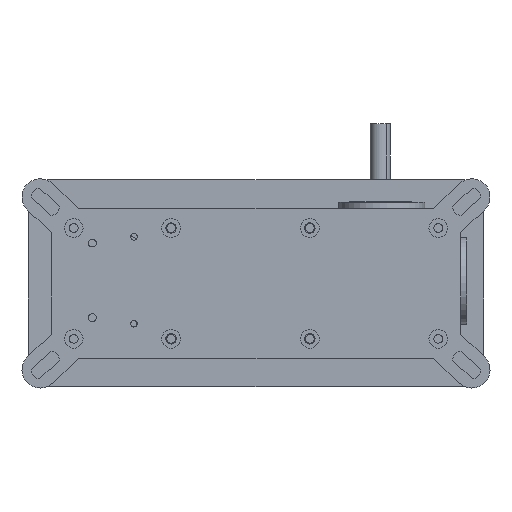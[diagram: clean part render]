
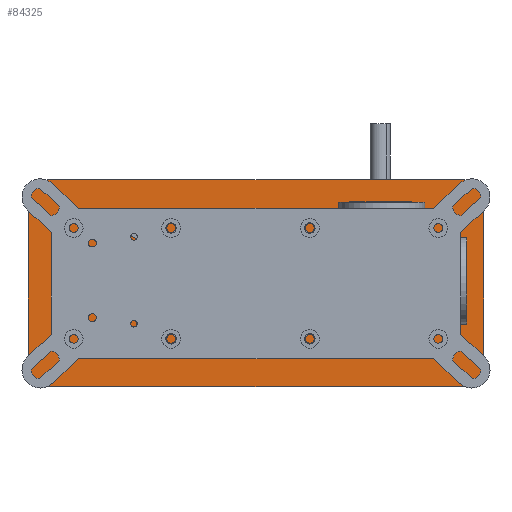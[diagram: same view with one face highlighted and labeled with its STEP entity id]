
A CAD part, front view. The second image highlights one B-rep face of the part: STEP entity #84325.
In plain terms, the highlighted planar face has unit normal (0, -1, 0) as drawn and (0, 0, -1) by its records, which use the part's own axes.
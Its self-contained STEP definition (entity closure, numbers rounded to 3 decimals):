
#5345 = CARTESIAN_POINT ( 'NONE',  ( -68., -14., 0. ) ) ;
#5651 = PLANE ( 'NONE',  #100401 ) ;
#6340 = EDGE_CURVE ( 'NONE', #11785, #133451, #150991, .T. ) ;
#10142 = CARTESIAN_POINT ( 'NONE',  ( 60., 0., 0. ) ) ;
#11785 = VERTEX_POINT ( 'NONE', #39999 ) ;
#12185 = DIRECTION ( 'NONE',  ( 0., 0., -1. ) ) ;
#12628 = ORIENTED_EDGE ( 'NONE', *, *, #43449, .T. ) ;
#12802 = DIRECTION ( 'NONE',  ( 1., 0., 0. ) ) ;
#15882 = DIRECTION ( 'NONE',  ( 0., 0., -1. ) ) ;
#16481 = EDGE_CURVE ( 'NONE', #106326, #70699, #71251, .T. ) ;
#16779 = VERTEX_POINT ( 'NONE', #52475 ) ;
#18472 = DIRECTION ( 'NONE',  ( 0., 0., 1. ) ) ;
#18840 = CARTESIAN_POINT ( 'NONE',  ( -100., 50., 0. ) ) ;
#19722 = CARTESIAN_POINT ( 'NONE',  ( -110., 40., 0. ) ) ;
#20946 = ORIENTED_EDGE ( 'NONE', *, *, #22954, .F. ) ;
#22954 = EDGE_CURVE ( 'NONE', #51712, #16779, #37135, .T. ) ;
#23013 = DIRECTION ( 'NONE',  ( 1., 0., 0. ) ) ;
#26733 = AXIS2_PLACEMENT_3D ( 'NONE', #88496, #12185, #101304 ) ;
#27379 = EDGE_LOOP ( 'NONE', ( #109191, #20946 ) ) ;
#29429 = VECTOR ( 'NONE', #111084, 1000. ) ;
#31152 = AXIS2_PLACEMENT_3D ( 'NONE', #92220, #15882, #105019 ) ;
#33433 = LINE ( 'NONE', #98261, #29429 ) ;
#34103 = CIRCLE ( 'NONE', #67924, 10. ) ;
#35252 = AXIS2_PLACEMENT_3D ( 'NONE', #76246, #165254, #89034 ) ;
#37135 = CIRCLE ( 'NONE', #31152, 30. ) ;
#38470 = ORIENTED_EDGE ( 'NONE', *, *, #136347, .F. ) ;
#39999 = CARTESIAN_POINT ( 'NONE',  ( 100., 50., 0. ) ) ;
#43449 = EDGE_CURVE ( 'NONE', #128712, #133451, #34103, .T. ) ;
#48374 = EDGE_CURVE ( 'NONE', #50403, #102498, #88782, .T. ) ;
#48413 = EDGE_CURVE ( 'NONE', #11785, #158484, #92808, .T. ) ;
#49629 = DIRECTION ( 'NONE',  ( -1., 0., 0. ) ) ;
#50403 = VERTEX_POINT ( 'NONE', #110868 ) ;
#50832 = VECTOR ( 'NONE', #66179, 1000. ) ;
#51712 = VERTEX_POINT ( 'NONE', #95247 ) ;
#52475 = CARTESIAN_POINT ( 'NONE',  ( 90., 0., 0. ) ) ;
#53741 = FACE_BOUND ( 'NONE', #27379, .T. ) ;
#57035 = EDGE_CURVE ( 'NONE', #50403, #60713, #59021, .T. ) ;
#57723 = CARTESIAN_POINT ( 'NONE',  ( -100., 40., 0. ) ) ;
#58349 = CARTESIAN_POINT ( 'NONE',  ( -52., 0., 0. ) ) ;
#59021 = LINE ( 'NONE', #60220, #156556 ) ;
#60220 = CARTESIAN_POINT ( 'NONE',  ( -110., -50., 0. ) ) ;
#60713 = VERTEX_POINT ( 'NONE', #154135 ) ;
#62371 = ORIENTED_EDGE ( 'NONE', *, *, #48413, .T. ) ;
#66179 = DIRECTION ( 'NONE',  ( 0., -1., 0. ) ) ;
#67924 = AXIS2_PLACEMENT_3D ( 'NONE', #57723, #146729, #70558 ) ;
#70558 = DIRECTION ( 'NONE',  ( 1., 0., 0. ) ) ;
#70699 = VERTEX_POINT ( 'NONE', #163769 ) ;
#71144 = CARTESIAN_POINT ( 'NONE',  ( -68., 14., 0. ) ) ;
#71251 =( BOUNDED_CURVE ( )  B_SPLINE_CURVE ( 3, ( #107254, #5345, #106721, #120010 ),
 .UNSPECIFIED., .F., .F. ) 
 B_SPLINE_CURVE_WITH_KNOTS ( ( 4, 4 ),
 ( 0., 3.142 ),
 .UNSPECIFIED. ) 
 CURVE ( )  GEOMETRIC_REPRESENTATION_ITEM ( )  RATIONAL_B_SPLINE_CURVE ( ( 1., 0.333, 0.333, 1. ) ) 
 REPRESENTATION_ITEM ( '' )  );
#76246 = CARTESIAN_POINT ( 'NONE',  ( 100., 40., 0. ) ) ;
#76496 = AXIS2_PLACEMENT_3D ( 'NONE', #165317, #89089, #12802 ) ;
#78687 = EDGE_LOOP ( 'NONE', ( #160121, #93253 ) ) ;
#79356 = VECTOR ( 'NONE', #49629, 1000. ) ;
#80698 = EDGE_LOOP ( 'NONE', ( #104291, #159999, #38470, #12628, #112465, #62371, #101160, #149412 ) ) ;
#83657 = FACE_BOUND ( 'NONE', #78687, .T. ) ;
#84325 = ADVANCED_FACE ( 'NONE', ( #83657, #151264, #53741 ), #5651, .F. ) ;
#85833 = CIRCLE ( 'NONE', #76496, 10. ) ;
#88496 = CARTESIAN_POINT ( 'NONE',  ( -100., -40., 0. ) ) ;
#88782 = CIRCLE ( 'NONE', #26733, 10. ) ;
#89034 = DIRECTION ( 'NONE',  ( 1., 0., 0. ) ) ;
#89089 = DIRECTION ( 'NONE',  ( 0., 0., -1. ) ) ;
#91781 = EDGE_CURVE ( 'NONE', #70699, #106326, #140858, .T. ) ;
#92220 = CARTESIAN_POINT ( 'NONE',  ( 60., 0., 0. ) ) ;
#92808 = CIRCLE ( 'NONE', #35252, 10. ) ;
#93253 = ORIENTED_EDGE ( 'NONE', *, *, #91781, .T. ) ;
#95247 = CARTESIAN_POINT ( 'NONE',  ( 30., 0., 0. ) ) ;
#96636 = CIRCLE ( 'NONE', #142886, 30. ) ;
#98261 = CARTESIAN_POINT ( 'NONE',  ( 110., 50., 0. ) ) ;
#99274 = DIRECTION ( 'NONE',  ( 0., 0., -1. ) ) ;
#100401 = AXIS2_PLACEMENT_3D ( 'NONE', #158177, #18472, #107567 ) ;
#101160 = ORIENTED_EDGE ( 'NONE', *, *, #106421, .F. ) ;
#101304 = DIRECTION ( 'NONE',  ( 1., 0., 0. ) ) ;
#102498 = VERTEX_POINT ( 'NONE', #138244 ) ;
#104291 = ORIENTED_EDGE ( 'NONE', *, *, #57035, .F. ) ;
#105019 = DIRECTION ( 'NONE',  ( 1., 0., 0. ) ) ;
#106326 = VERTEX_POINT ( 'NONE', #159431 ) ;
#106421 = EDGE_CURVE ( 'NONE', #162053, #158484, #33433, .T. ) ;
#106721 = CARTESIAN_POINT ( 'NONE',  ( -52., -14., 0. ) ) ;
#107254 = CARTESIAN_POINT ( 'NONE',  ( -68., 0., 0. ) ) ;
#107567 = DIRECTION ( 'NONE',  ( 1., 0., 0. ) ) ;
#109191 = ORIENTED_EDGE ( 'NONE', *, *, #151539, .F. ) ;
#110868 = CARTESIAN_POINT ( 'NONE',  ( -100., -50., 0. ) ) ;
#111084 = DIRECTION ( 'NONE',  ( 0., 1., 0. ) ) ;
#112465 = ORIENTED_EDGE ( 'NONE', *, *, #6340, .F. ) ;
#116853 = CARTESIAN_POINT ( 'NONE',  ( -110., 50., 0. ) ) ;
#120010 = CARTESIAN_POINT ( 'NONE',  ( -52., 0., 0. ) ) ;
#124117 = CARTESIAN_POINT ( 'NONE',  ( 110., -40., 0. ) ) ;
#128712 = VERTEX_POINT ( 'NONE', #19722 ) ;
#133451 = VERTEX_POINT ( 'NONE', #18840 ) ;
#134596 = CARTESIAN_POINT ( 'NONE',  ( -52., 14., 0. ) ) ;
#136347 = EDGE_CURVE ( 'NONE', #128712, #102498, #148403, .T. ) ;
#138244 = CARTESIAN_POINT ( 'NONE',  ( -110., -40., 0. ) ) ;
#140858 =( BOUNDED_CURVE ( )  B_SPLINE_CURVE ( 3, ( #58349, #134596, #71144, #160191 ),
 .UNSPECIFIED., .F., .F. ) 
 B_SPLINE_CURVE_WITH_KNOTS ( ( 4, 4 ),
 ( 3.142, 6.283 ),
 .UNSPECIFIED. ) 
 CURVE ( )  GEOMETRIC_REPRESENTATION_ITEM ( )  RATIONAL_B_SPLINE_CURVE ( ( 1., 0.333, 0.333, 1. ) ) 
 REPRESENTATION_ITEM ( '' )  );
#142886 = AXIS2_PLACEMENT_3D ( 'NONE', #10142, #99274, #23013 ) ;
#146729 = DIRECTION ( 'NONE',  ( 0., 0., -1. ) ) ;
#148051 = CARTESIAN_POINT ( 'NONE',  ( 110., 40., 0. ) ) ;
#148403 = LINE ( 'NONE', #116853, #50832 ) ;
#149412 = ORIENTED_EDGE ( 'NONE', *, *, #159250, .T. ) ;
#150991 = LINE ( 'NONE', #151460, #79356 ) ;
#151264 = FACE_OUTER_BOUND ( 'NONE', #80698, .T. ) ;
#151460 = CARTESIAN_POINT ( 'NONE',  ( -110., 50., 0. ) ) ;
#151539 = EDGE_CURVE ( 'NONE', #16779, #51712, #96636, .T. ) ;
#154135 = CARTESIAN_POINT ( 'NONE',  ( 100., -50., 0. ) ) ;
#156556 = VECTOR ( 'NONE', #163148, 1000. ) ;
#158177 = CARTESIAN_POINT ( 'NONE',  ( -110., -50., 0. ) ) ;
#158484 = VERTEX_POINT ( 'NONE', #148051 ) ;
#159250 = EDGE_CURVE ( 'NONE', #162053, #60713, #85833, .T. ) ;
#159431 = CARTESIAN_POINT ( 'NONE',  ( -68., 0., 0. ) ) ;
#159999 = ORIENTED_EDGE ( 'NONE', *, *, #48374, .T. ) ;
#160121 = ORIENTED_EDGE ( 'NONE', *, *, #16481, .T. ) ;
#160191 = CARTESIAN_POINT ( 'NONE',  ( -68., 0., 0. ) ) ;
#162053 = VERTEX_POINT ( 'NONE', #124117 ) ;
#163148 = DIRECTION ( 'NONE',  ( 1., 0., 0. ) ) ;
#163769 = CARTESIAN_POINT ( 'NONE',  ( -52., 0., 0. ) ) ;
#165254 = DIRECTION ( 'NONE',  ( 0., 0., -1. ) ) ;
#165317 = CARTESIAN_POINT ( 'NONE',  ( 100., -40., 0. ) ) ;
